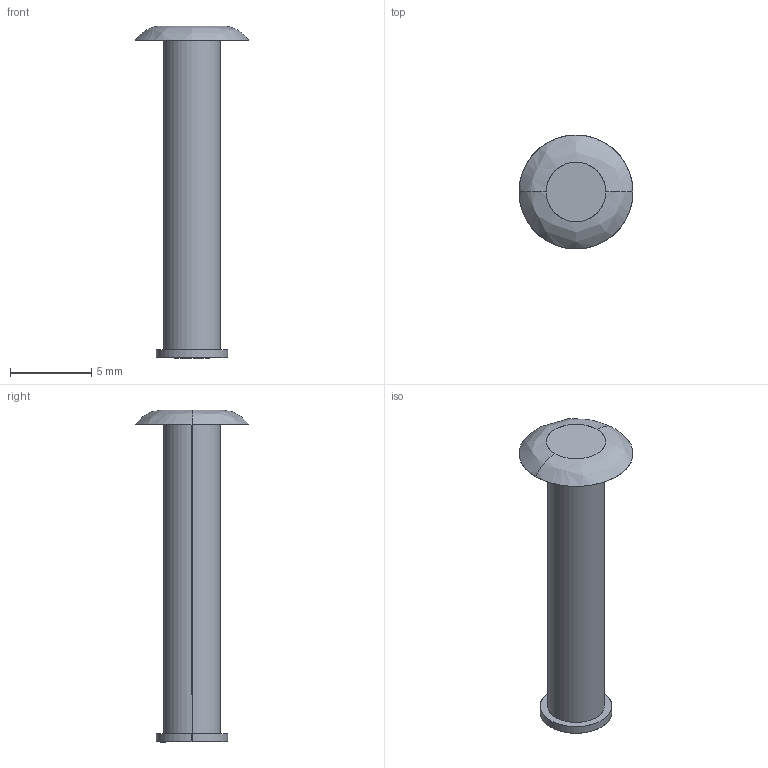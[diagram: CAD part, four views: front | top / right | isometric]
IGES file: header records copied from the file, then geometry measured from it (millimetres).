
Start section: SolidWorks IGES FILE using analytic representation for surfaces
Global section: file name: C:\Documents and Settings\brechard\Bureau\GE 576\537.300.00.IGS; native system: SolidWorks 2001Plus by SolidWorks Corporation; preprocessor: Version 5.3; author: brechard; date: 050126.095830; units: millimetre
Bounding box: 7 x 7 x 20.4 mm (x, y, z)
Surface area: 319.6 mm2 (no closed solid volume)
Topology: 0 solids, 0 shells, 15 faces, 296 edges, 296 vertices
Faces by surface type: bspline 9, revolution 6
